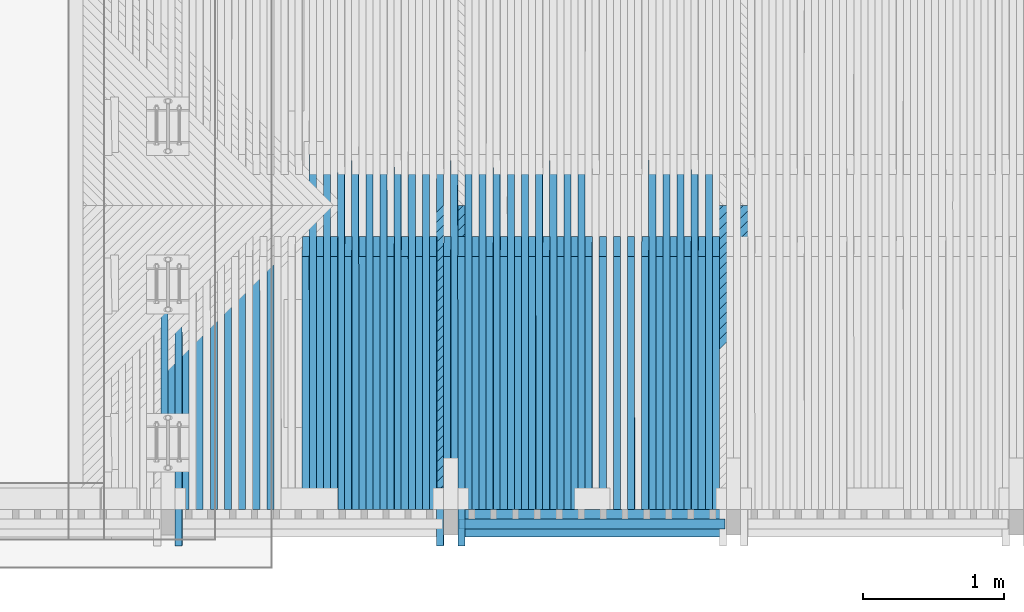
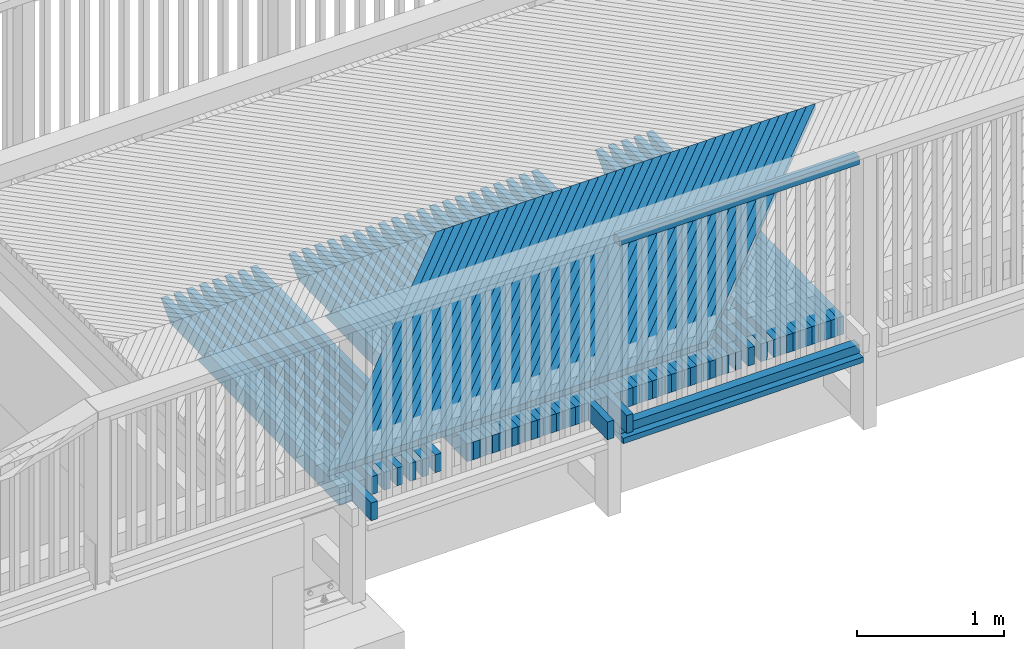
# One storey, part 18 of 52: 110 beams.
"""IFC2X3 building model written with IfcOpenShell, lengths in millimetres."""

import ifcopenshell
import ifcopenshell.guid

model = None  # the IFC model being written
_history = None  # IfcOwnerHistory: only IFC2X3 demands one
_inside = {}  # id of a spatial element -> (the spatial element, [elements in it])
_under = {}  # id of a project, library or spatial element -> (it, [spatial elements below it])
_declared = {}  # id of a project -> (the project, [libraries it declares])
_typed = {}  # id of a type object -> (the type object, [elements of that type])
_made_of = {}  # id of a material, layer set ... -> (it, [elements and type objects made of it])


def new_model(schema):
    """Start an empty IFC model of exactly this schema.

    Asked for "IFC4X3", IfcOpenShell would pick the latest addendum, in which some entities
    have other attributes; the version numbers below select the first issue.
    IFC2X3 requires an IfcOwnerHistory on every rooted entity: one is made here for all.
    """
    global model, _history
    if schema == "IFC4X3":
        model = ifcopenshell.file(schema_version=(4, 3, 0, 0))
    else:
        model = ifcopenshell.file(schema=schema)
    _inside.clear()
    _under.clear()
    _declared.clear()
    _typed.clear()
    _made_of.clear()
    _history = None
    if model.schema == "IFC2X3":
        org = make("IfcOrganization", Name="unknown")
        user = make(
            "IfcPersonAndOrganization",
            ThePerson=make("IfcPerson", FamilyName="unknown"),
            TheOrganization=org,
        )
        app = make(
            "IfcApplication",
            ApplicationDeveloper=org,
            Version="unknown",
            ApplicationFullName="unknown",
            ApplicationIdentifier="unknown",
        )
        _history = make(
            "IfcOwnerHistory",
            OwningUser=user,
            OwningApplication=app,
            ChangeAction="ADDED",
            CreationDate=0,
        )
    return model


def make(cls, **values):
    """One entity of the class cls with the attributes given. An attribute that is None is left unset."""
    return model.create_entity(
        cls, **{name: value for name, value in values.items() if value is not None}
    )


def rooted(cls, **values):
    """An entity with a GlobalId (a new one), such as an element, a storey or a relation."""
    return make(cls, GlobalId=ifcopenshell.guid.new(), OwnerHistory=_history, **values)


def si_unit(unit_type, name, prefix=None):
    """IfcSIUnit, for example si_unit("LENGTHUNIT", "METRE", prefix="MILLI")."""
    return make("IfcSIUnit", UnitType=unit_type, Prefix=prefix, Name=name)


def assignment(units):
    """IfcUnitAssignment: the units of a project."""
    return None if units is None else make("IfcUnitAssignment", Units=units)


def point(xyz):
    """IfcCartesianPoint."""
    return None if xyz is None else make("IfcCartesianPoint", Coordinates=xyz)


def direction(xyz):
    """IfcDirection."""
    return None if xyz is None else make("IfcDirection", DirectionRatios=xyz)


def frame(location, z_axis=None, x_axis=None):
    """IfcAxis2Placement3D, a coordinate frame: its origin and axes. An axis left out is left unset."""
    return make(
        "IfcAxis2Placement3D",
        Location=point(location),
        Axis=direction(z_axis),
        RefDirection=direction(x_axis),
    )


def origin_with_axes():
    """The frame at (0, 0, 0) with the z axis (0, 0, 1) and the x axis (1, 0, 0) written out."""
    return frame((0.0, 0.0, 0.0), z_axis=(0.0, 0.0, 1.0), x_axis=(1.0, 0.0, 0.0))


def place(relative_to, where):
    """IfcLocalPlacement: puts the frame where relative to a parent placement (None: the world)."""
    return make(
        "IfcLocalPlacement", PlacementRelTo=relative_to, RelativePlacement=where
    )


def context(
    kind, dimensions, precision=None, world=None, true_north=None, identifier=None
):
    """IfcGeometricRepresentationContext, for example the 3D "Model" context."""
    return make(
        "IfcGeometricRepresentationContext",
        ContextIdentifier=identifier,
        ContextType=kind,
        CoordinateSpaceDimension=dimensions,
        Precision=precision,
        WorldCoordinateSystem=world,
        TrueNorth=true_north,
    )


def subcontext(parent, identifier, kind, view, scale=None):
    """IfcGeometricRepresentationSubContext, for example "Body" below "Model"."""
    return make(
        "IfcGeometricRepresentationSubContext",
        ContextIdentifier=identifier,
        ContextType=kind,
        ParentContext=parent,
        TargetScale=scale,
        TargetView=view,
    )


def project(units=None, contexts=None):
    """IfcProject with its units and contexts."""
    return rooted(
        "IfcProject",
        Name="project",
        RepresentationContexts=contexts,
        UnitsInContext=assignment(units),
    )


def spatial(cls, under=None, at=None, **own):
    """A site, building, storey or space (cls), placed at a placement, below another one or the project."""
    s = rooted(cls, ObjectPlacement=at, **own)
    if under is not None:
        _under.setdefault(under.id(), (under, []))[1].append(s)
    return s


def faces_of(points, faces, orient=None, outer=None):
    """IfcFace entities. A face is a list of loops; a loop is a list of indices into points, from 0.

    orient and outer hold one flag for each loop. By default every Orientation is true, the
    first loop of a face is its IfcFaceOuterBound and the others are IfcFaceBound.
    """
    made = []
    for i, loops in enumerate(faces):
        bounds = []
        for j, loop in enumerate(loops):
            is_outer = j == 0 if outer is None else outer[i][j]
            bounds.append(
                make(
                    "IfcFaceOuterBound" if is_outer else "IfcFaceBound",
                    Bound=make("IfcPolyLoop", Polygon=[points[k] for k in loop]),
                    Orientation=True if orient is None else orient[i][j],
                )
            )
        made.append(make("IfcFace", Bounds=bounds))
    return made


def faceted_brep(points, faces, orient=None, outer=None, voids=None):
    """IfcFacetedBrep: a solid bounded by flat faces; with voids (closed shells), ...WithVoids."""
    shared = [point(p) for p in points]
    hull = make("IfcClosedShell", CfsFaces=faces_of(shared, faces, orient, outer))
    if voids is None:
        return make("IfcFacetedBrep", Outer=hull)
    return make(
        "IfcFacetedBrepWithVoids",
        Outer=hull,
        Voids=[
            make(cls, CfsFaces=faces_of(shared, fs, o, b)) for cls, fs, o, b in voids
        ],
    )


def shape(context_of_items, identifier, shape_type, items):
    """IfcShapeRepresentation: the items that make up one representation, for example the "Body"."""
    return make(
        "IfcShapeRepresentation",
        ContextOfItems=context_of_items,
        RepresentationIdentifier=identifier,
        RepresentationType=shape_type,
        Items=items,
    )


def material(Name=None, Category=None):
    """IfcMaterial."""
    return make("IfcMaterial", Name=Name, Category=Category)


def made_of(thing, what):
    """Note that an element or type object is made of a material, layer set ...; save() writes the relation."""
    if what is not None:
        _made_of.setdefault(what.id(), (what, []))[1].append(thing)
    return thing


def type_object(cls, material=None, **own):
    """A type object (cls), such as IfcWallType, which elements share."""
    return made_of(rooted(cls, **own), material)


def element(
    cls,
    number,
    at=None,
    inside=None,
    cuts=None,
    type_object=None,
    material=None,
    context=None,
    identifier="Body",
    shape_type=None,
    held_by="IfcProductDefinitionShape",
    body=None,
    shapes=None,
    **own,
):
    """One element of the class cls, such as IfcWall. Its Tag is "e" and its number.

    at: its placement. inside: the storey or other place that contains it. cuts: it is an
    opening in that element (IfcRelVoidsElement). A single representation is given by context,
    identifier, shape_type and body (its items); several are given by shapes. held_by: the class
    of the entity that holds the representations. save() writes the other relations.
    """
    e = rooted(cls, Tag="e%d" % number, ObjectPlacement=at, **own)
    if body is not None:
        shapes = [shape(context, identifier, shape_type, body)]
    if shapes is not None:
        e.Representation = make(held_by, Representations=shapes)
    if inside is not None:
        _inside.setdefault(inside.id(), (inside, []))[1].append(e)
    if cuts is not None:
        rooted(
            "IfcRelVoidsElement", RelatingBuildingElement=cuts, RelatedOpeningElement=e
        )
    if type_object is not None:
        _typed.setdefault(type_object.id(), (type_object, []))[1].append(e)
    return made_of(e, material)


def aggregate(whole, parts):
    """IfcRelAggregates: a whole, such as a stair, and the parts it consists of."""
    return rooted("IfcRelAggregates", RelatingObject=whole, RelatedObjects=parts)


def save(model, path):
    """Write the relations noted so far, then the file.

    IfcRelAggregates (storeys below a building ...), IfcRelContainedInSpatialStructure (elements
    in a storey), IfcRelDefinesByType, IfcRelAssociatesMaterial and IfcRelDeclares: one each for
    every whole, place, type object, material and project.
    """
    for whole, parts in _under.values():
        aggregate(whole, parts)
    for where, things in _inside.values():
        rooted(
            "IfcRelContainedInSpatialStructure",
            RelatedElements=things,
            RelatingStructure=where,
        )
    for kind, things in _typed.values():
        rooted("IfcRelDefinesByType", RelatedObjects=things, RelatingType=kind)
    for what, things in _made_of.values():
        rooted("IfcRelAssociatesMaterial", RelatedObjects=things, RelatingMaterial=what)
    for by, libraries in _declared.values():
        rooted("IfcRelDeclares", RelatingContext=by, RelatedDefinitions=libraries)
    model.write(path)


model = new_model("IFC2X3")

# Units and contexts
model_context = context("Model", 3, precision=1e-05, world=origin_with_axes())
body_context = subcontext(model_context, "Body", "Model", "MODEL_VIEW")
ifc_project = project(units=[si_unit("LENGTHUNIT", "METRE", prefix="MILLI"), si_unit("AREAUNIT", "SQUARE_METRE"), si_unit("VOLUMEUNIT", "CUBIC_METRE"), si_unit("MASSUNIT", "GRAM", prefix="KILO"), si_unit("TIMEUNIT", "SECOND"), si_unit("PLANEANGLEUNIT", "RADIAN"), si_unit("SOLIDANGLEUNIT", "STERADIAN"), si_unit("THERMODYNAMICTEMPERATUREUNIT", "DEGREE_CELSIUS"), si_unit("LUMINOUSINTENSITYUNIT", "LUMEN")], contexts=[model_context])

# Site, building, storey
site_placement = place(None, origin_with_axes())
site = spatial("IfcSite", under=ifc_project, at=site_placement, Name="Undefined", CompositionType="ELEMENT")
building_placement = place(site_placement, origin_with_axes())
building = spatial("IfcBuilding", under=site, at=building_placement, Name="Undefined", CompositionType="ELEMENT")
storey_placement = place(building_placement, origin_with_axes())
storey = spatial("IfcBuildingStorey", under=building, at=storey_placement, Name="Undefined", CompositionType="ELEMENT", Elevation=0.0)

# Beams
ifc_material = material(Name="TIMBER/Timber_Undefined")
beam_type_1 = type_object("IfcBeamType", Name="70*70", PredefinedType="NOTDEFINED")
for number, where, z_axis, x_axis, name in (
    (1, (2060.3049307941, 110.009999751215, 2938.55031617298), (0.0, -1.0, 0.0), (0.999961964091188, 0.0, 0.00872183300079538), "BEAM"),
    (2, (2060.3049307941, 110.009999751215, 4498.55031617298), (0.0, -1.0, 0.0), (0.999961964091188, 0.0, 0.00872183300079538), "BEAM"),
):
    element("IfcBeam", number, at=place(storey_placement, frame(where, z_axis=z_axis, x_axis=x_axis)), inside=storey, type_object=beam_type_1, material=ifc_material, Name=name, ObjectType="70*70", context=body_context, shape_type="Brep", body=[
        faceted_brep([(-3.63797880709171e-12, 35.0000000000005, -35.0), (-3.63797880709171e-12, 35.0000000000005, 35.0), (1880.07227097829, 34.9999999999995, 35.0), (1880.07227097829, 34.9999999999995, -35.0), (-3.63797880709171e-12, -34.9999999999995, 35.0), (1880.07227097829, -35.0000000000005, 35.0), (-3.63797880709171e-12, -34.9999999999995, -35.0), (1880.07227097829, -35.0000000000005, -35.0)], [[[0, 1, 2, 3]], [[1, 4, 5, 2]], [[4, 6, 7, 5]], [[6, 0, 3, 7]], [[5, 7, 3, 2]], [[6, 4, 1, 0]]]),
    ])
beam_type_2 = type_object("IfcBeamType", Name="50*50", PredefinedType="NOTDEFINED")
for number, where, z_axis, x_axis, name in (
    (3, (1982.89840031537, 2364.50010032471, 3206.05577851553), (0.707207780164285, -0.706981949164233, -0.00580338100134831), (-0.706907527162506, -0.706948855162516, -0.0224736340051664), "BEAM"),
    (4, (2053.61914354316, 2364.50010032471, 3206.75839778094), (0.707207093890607, -0.706981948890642, -0.00588644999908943), (-0.706910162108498, -0.706948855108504, -0.0223906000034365), "BEAM"),
    (5, (2124.3399688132, 2364.50010032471, 3207.45271013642), (0.707206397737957, -0.706981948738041, -0.00596951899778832), (-0.706912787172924, -0.706948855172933, -0.0223075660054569), "BEAM"),
    (6, (2195.06087514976, 2364.50010032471, 3208.13871557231), (0.70720569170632, -0.706981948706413, -0.00605258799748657), (-0.706915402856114, -0.706948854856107, -0.0222245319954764), "BEAM"),
    (7, (2265.78186157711, 2364.50010032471, 3208.8164140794), (0.707204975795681, -0.706981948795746, -0.00613565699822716), (-0.70691800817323, -0.706948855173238, -0.0221414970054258), "BEAM"),
    (8, (2336.5029271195, 2364.50010032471, 3209.48580564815), (0.707204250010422, -0.706981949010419, -0.00621872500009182), (-0.706920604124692, -0.706948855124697, -0.0220584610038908), "BEAM"),
    (9, (2407.22407080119, 2364.50010032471, 3210.14689026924), (0.707203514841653, -0.706981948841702, -0.00630179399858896), (-0.706923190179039, -0.706948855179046, -0.0219754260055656), "BEAM"),
    (10, (2477.94529164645, 2364.50010032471, 3210.79966793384), (0.707202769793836, -0.706981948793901, -0.00638486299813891), (-0.706925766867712, -0.706948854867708, -0.0218923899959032), "BEAM"),
    (11, (4882.50574585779, 2364.50010032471, 3228.05141176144), (0.707171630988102, -0.706981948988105, -0.00920913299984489), (-0.707007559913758, -0.706948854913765, -0.0190689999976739), "BEAM"),
    (12, (4811.78248202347, 2364.50010032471, 3227.68107523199), (0.707172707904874, -0.7069819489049, -0.00912606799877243), (-0.707005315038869, -0.706948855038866, -0.0191520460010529), "BEAM"),
    (13, (4741.05926217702, 2364.50010032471, 3227.30243150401), (0.70717377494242, -0.706981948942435, -0.00904300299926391), (-0.707003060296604, -0.706948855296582, -0.0192350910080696), "BEAM"),
    (14, (4670.33608729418, 2364.50010032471, 3226.91548058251), (0.707174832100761, -0.706981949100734, -0.00895993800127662), (-0.707000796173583, -0.706948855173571, -0.019318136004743), "BEAM"),
    (15, (4599.61295835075, 2364.50010032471, 3226.52022247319), (0.707175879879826, -0.706981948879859, -0.00887687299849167), (-0.706998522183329, -0.706948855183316, -0.0194011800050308), "BEAM"),
    (16, (4528.88987632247, 2364.50010032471, 3226.11665718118), (0.707176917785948, -0.706981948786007, -0.00879380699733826), (-0.706996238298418, -0.706948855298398, -0.0194842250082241), "BEAM"),
    (17, (4458.16684218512, 2364.50010032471, 3225.70478471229), (0.707177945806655, -0.706981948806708, -0.00871074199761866), (-0.706993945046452, -0.706948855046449, -0.0195672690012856), "BEAM"),
    (18, (4387.44385691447, 2364.50010032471, 3225.284605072), (0.707178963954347, -0.70698194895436, -0.0086276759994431), (-0.706991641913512, -0.706948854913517, -0.0196503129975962), "BEAM"),
    (19, (4316.72092148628, 2364.50010032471, 3224.85611826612), (0.707179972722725, -0.706981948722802, -0.0085446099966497), (-0.706989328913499, -0.706948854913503, -0.0197333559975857), "BEAM"),
    (20, (4245.99803687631, 2364.50010032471, 3224.41932430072), (0.707180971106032, -0.706981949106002, -0.00846154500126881), (-0.706987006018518, -0.706948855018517, -0.019816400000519), "BEAM"),
    (21, (4175.27520406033, 2364.50010032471, 3223.97422318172), (0.707181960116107, -0.706981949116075, -0.00837847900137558), (-0.706984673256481, -0.706948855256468, -0.0198994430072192), "BEAM"),
    (22, (4104.5524240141, 2364.50010032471, 3223.52081491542), (0.707182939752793, -0.706981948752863, -0.00829541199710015), (-0.706982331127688, -0.706948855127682, -0.019982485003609), "BEAM"),
    (23, (4033.82969771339, 2364.50010032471, 3223.05909950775), (0.707183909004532, -0.706981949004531, -0.00821234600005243), (-0.706979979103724, -0.70694885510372, -0.0200655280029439), "BEAM"),
    (24, (3963.10702613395, 2364.50010032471, 3222.58907696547), (0.707184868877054, -0.70698194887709, -0.00812927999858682), (-0.706977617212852, -0.706948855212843, -0.0201485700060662), "BEAM"),
    (25, (3892.38441025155, 2364.50010032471, 3222.11074729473), (0.707185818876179, -0.706981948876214, -0.00804621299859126), (-0.706975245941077, -0.706948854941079, -0.0202316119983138), "BEAM"),
    (26, (3821.66185104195, 2364.50010032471, 3221.62411050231), (0.707186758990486, -0.706981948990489, -0.0079631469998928), (-0.706972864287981, -0.706948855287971, -0.020314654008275), "BEAM"),
    (27, (3750.93934948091, 2364.50010032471, 3221.12916659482), (0.707187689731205, -0.706981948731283, -0.00788007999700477), (-0.706970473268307, -0.706948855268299, -0.0203976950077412), "BEAM"),
    (28, (3680.21690654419, 2364.50010032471, 3220.62591557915), (0.707188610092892, -0.706981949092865, -0.00779701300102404), (-0.70696807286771, -0.706948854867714, -0.0204807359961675), "BEAM"),
    (29, (3609.49452320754, 2364.50010032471, 3220.11435746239), (0.707189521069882, -0.706981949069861, -0.00771394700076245), (-0.70696566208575, -0.706948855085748, -0.0205637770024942), "BEAM"),
    (30, (3538.77220044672, 2364.50010032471, 3219.59449225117), (0.707190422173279, -0.706981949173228, -0.00763088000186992), (-0.706963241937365, -0.706948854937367, -0.0206468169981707), "BEAM"),
    (31, (3468.04993923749, 2364.50010032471, 3219.06631995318), (0.707191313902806, -0.706981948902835, -0.00754781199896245), (-0.706960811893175, -0.706948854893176, -0.0207298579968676), "BEAM"),
    (32, (3397.3277405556, 2364.50010032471, 3218.52984057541), (0.707192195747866, -0.706981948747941, -0.00746474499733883), (-0.706958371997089, -0.706948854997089, -0.0208128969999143), "BEAM"),
    (33, (3326.60560537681, 2364.50010032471, 3217.98505412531), (0.707193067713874, -0.70698194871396, -0.00738167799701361), (-0.706955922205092, -0.70694885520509, -0.0208959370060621), "BEAM"),
    (34, (3255.88353467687, 2364.50010032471, 3217.43196061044), (0.707193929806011, -0.706981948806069, -0.00729860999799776), (-0.706953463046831, -0.706948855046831, -0.0209789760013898), "BEAM"),
    (35, (3185.16152943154, 2364.50010032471, 3216.87056003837), (0.707194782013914, -0.70698194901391, -0.00721554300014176), (-0.706950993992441, -0.706948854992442, -0.0210620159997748), "BEAM"),
    (36, (3114.43959061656, 2364.50010032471, 3216.30085241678), (0.707195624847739, -0.706981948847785, -0.00713247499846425), (-0.706948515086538, -0.706948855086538, -0.0211450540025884), "BEAM"),
    (37, (3043.7177192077, 2364.50010032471, 3215.72283775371), (0.707196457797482, -0.706981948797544, -0.00704940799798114), (-0.706946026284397, -0.706948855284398, -0.0212280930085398), "BEAM"),
    (38, (2972.99591618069, 2364.50010032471, 3215.13651605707), (0.70719728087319, -0.706981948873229, -0.00696633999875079), (-0.706943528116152, -0.706948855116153, -0.0213111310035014), "BEAM"),
    (39, (2902.27418251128, 2364.50010032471, 3214.5418873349), (0.707198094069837, -0.706981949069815, -0.00688327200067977), (-0.706941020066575, -0.706948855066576, -0.0213941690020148), "BEAM"),
    (40, (2831.55251917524, 2364.50010032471, 3213.93895159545), (0.70719889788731, -0.706981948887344, -0.00680020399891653), (-0.706938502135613, -0.706948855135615, -0.02147720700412), "BEAM"),
    (41, (2760.83092714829, 2364.50010032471, 3213.32770884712), (0.707199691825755, -0.706981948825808, -0.00671713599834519), (-0.706935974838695, -0.706948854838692, -0.0215602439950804), "BEAM"),
    (42, (2690.1094074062, 2364.50010032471, 3212.70815909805), (0.707200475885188, -0.706981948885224, -0.00663406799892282), (-0.70693343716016, -0.706948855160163, -0.0216432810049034), "BEAM"),
    (43, (2619.38796092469, 2364.50010032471, 3212.08030235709), (0.707201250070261, -0.706981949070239, -0.00655099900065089), (-0.706930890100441, -0.706948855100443, -0.0217263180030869), "BEAM"),
    (44, (2548.66658867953, 2364.50010032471, 3211.44413863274), (0.70720201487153, -0.70698194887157, -0.00646793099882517), (-0.706928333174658, -0.706948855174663, -0.0218093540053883), "BEAM"),
):
    element("IfcBeam", number, at=place(storey_placement, frame(where, z_axis=z_axis, x_axis=x_axis)), inside=storey, type_object=beam_type_2, material=ifc_material, Name=name, ObjectType="50*50", context=body_context, shape_type="Brep", body=[
        faceted_brep([(24.894245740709, 25.0, -25.0), (-25.0086637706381, 24.9999999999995, 24.9999999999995), (2804.3406783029, 25.0000000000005, 25.0000000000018), (2854.34301907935, 25.0, -24.9999999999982), (-26.4222658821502, -25.0, 24.9999999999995), (2802.92643296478, -25.0, 25.0000000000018), (23.4806436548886, -25.0, -25.0), (2852.92877373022, -25.0, -24.9999999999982)], [[[0, 1, 2, 3]], [[1, 4, 5, 2]], [[4, 6, 7, 5]], [[6, 0, 3, 7]], [[5, 7, 3, 2]], [[6, 4, 1, 0]]]),
    ])
beam_type_3 = type_object("IfcBeamType", Name="195*45", PredefinedType="NOTDEFINED")
beam_1_placement = place(storey_placement, frame((2059.95011570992, 117.509999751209, 2881.05428246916), z_axis=(0.0, -1.0, 0.0), x_axis=(0.999961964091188, 0.0, 0.00872183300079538)))
element("IfcBeam", 45, at=beam_1_placement, inside=storey, type_object=beam_type_3, material=ifc_material, Name="BEAM", ObjectType="195*45", context=body_context, shape_type="Brep", body=[
    faceted_brep([(3.63797880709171e-12, 22.4999999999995, -97.5), (3.63797880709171e-12, 22.4999999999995, 97.5), (1880.22135781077, 22.4999999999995, 97.5), (1880.22135781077, 22.4999999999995, -97.5), (1.81898940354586e-12, -22.5000000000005, 97.5), (1880.22135781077, -22.5000000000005, 97.5), (1.81898940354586e-12, -22.5000000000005, -97.5), (1880.22135781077, -22.5000000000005, -97.5)], [[[0, 1, 2, 3]], [[1, 4, 5, 2]], [[4, 6, 7, 5]], [[6, 0, 3, 7]], [[5, 7, 3, 2]], [[6, 4, 1, 0]]]),
])
beam_type_4 = type_object("IfcBeamType", Name="150*50", PredefinedType="NOTDEFINED")
for number, where, z_axis, x_axis, name in (
    (46, (3875.98195239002, 216.50460761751, 3079.01849258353), (-0.00693257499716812, -0.0199960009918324, 0.99977602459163), (-0.000138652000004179, 0.99980006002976, 0.0199955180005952), "BEAM"),
    (47, (3775.96432395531, 216.50460761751, 3078.32495570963), (-0.007098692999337, -0.0199960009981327, 0.999774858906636), (-0.00014197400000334, 0.999800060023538, 0.0199954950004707), "BEAM"),
    (48, (3675.94681213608, 216.50460761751, 3077.61480038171), (-0.00726481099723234, -0.0199960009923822, 0.999773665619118), (-0.000145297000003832, 0.999800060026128, 0.0199954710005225), "BEAM"),
    (49, (3575.92941969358, 216.50460761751, 3076.88802661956), (-0.00743092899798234, -0.0199960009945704, 0.999772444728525), (-0.000148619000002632, 0.999800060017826, 0.0199954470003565), "BEAM"),
    (50, (3475.91214938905, 216.50460761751, 3076.1446344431), (-0.00759704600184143, -0.0199960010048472, 0.99977119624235), (-0.000151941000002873, 0.999800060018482, 0.0199954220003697), "BEAM"),
    (51, (3375.89500398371, 216.50460761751, 3075.38462387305), (-0.00776316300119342, -0.0199960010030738, 0.999769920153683), (-0.000155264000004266, 0.999800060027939, 0.0199953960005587), "BEAM"),
    (52, (3275.87798623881, 216.50460761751, 3074.60799493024), (-0.0079292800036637, -0.0199960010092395, 0.99976861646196), (-0.000158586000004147, 0.999800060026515, 0.0199953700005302), "BEAM"),
    (53, (3175.86109891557, 216.50460761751, 3073.81474763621), (-0.00809539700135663, -0.0199960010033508, 0.999767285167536), (-0.000161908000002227, 0.999800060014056, 0.0199953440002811), "BEAM"),
    (54, (3075.84434477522, 216.50460761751, 3073.00488201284), (-0.00826151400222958, -0.0199960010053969, 0.999765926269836), (-0.000165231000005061, 0.999800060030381, 0.0199953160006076), "BEAM"),
    (55, (2975.82772657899, 216.50460761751, 3072.1783980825), (-0.00842762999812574, -0.0199960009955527, 0.999764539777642), (-0.0001685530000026, 0.999800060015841, 0.0199952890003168), "BEAM"),
    (56, (2875.81124708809, 216.50460761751, 3071.33529586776), (-0.00859374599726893, -0.0199960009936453, 0.999763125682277), (-0.000171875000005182, 0.999800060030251, 0.019995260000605), "BEAM"),
    (57, (2775.79490906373, 216.50460761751, 3070.47557539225), (-0.00875986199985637, -0.0199960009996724, 0.999761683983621), (-0.000175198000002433, 0.999800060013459, 0.0199952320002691), "BEAM"),
    (58, (2675.77871526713, 216.50460761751, 3069.5992366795), (-0.00892597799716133, -0.0199960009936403, 0.999760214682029), (-0.000178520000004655, 0.999800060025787, 0.0199952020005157), "BEAM"),
    (59, (2575.76266845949, 216.50460761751, 3068.70627975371), (-0.00909209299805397, -0.0199960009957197, 0.999758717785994), (-0.000181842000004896, 0.999800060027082, 0.0199951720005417), "BEAM"),
    (60, (2475.74677140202, 216.50460761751, 3067.79670463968), (-0.00925820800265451, -0.0199960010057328, 0.999757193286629), (-0.000185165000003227, 0.999800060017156, 0.0199951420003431), "BEAM"),
    (61, (2375.73102685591, 216.50460761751, 3066.87051136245), (-0.00942432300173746, -0.0199960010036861, 0.999755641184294), (-0.000188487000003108, 0.999800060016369, 0.0199951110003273), "BEAM"),
    (62, (2275.71543758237, 216.50460761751, 3065.9276999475), (-0.00959043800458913, -0.0199960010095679, 0.999754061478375), (-0.00019180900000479, 0.999800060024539, 0.0199950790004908), "BEAM"),
    (63, (2175.70000634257, 216.50460761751, 3064.96827042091), (-0.00975655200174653, -0.0199960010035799, 0.999752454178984), (-0.000195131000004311, 0.999800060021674, 0.0199950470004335), "BEAM"),
):
    element("IfcBeam", number, at=place(storey_placement, frame(where, z_axis=z_axis, x_axis=x_axis)), inside=storey, type_object=beam_type_4, material=ifc_material, Name=name, ObjectType="150*50", context=body_context, shape_type="Brep", body=[
        faceted_brep([(-1.67788130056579e-07, -24.9999999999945, -74.9999999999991), (1.67786311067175e-07, -24.9999999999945, 75.0000000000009), (1.67786311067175e-07, 25.0000000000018, 75.0), (-1.67787220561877e-07, 25.0000000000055, -75.0), (1928.42646353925, -25.0, -75.0), (1789.96936433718, -25.0000000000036, 74.9999999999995), (1789.96936408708, 24.9999999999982, 75.0000000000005), (1928.42646328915, 24.9999999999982, -74.9999999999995)], [[[0, 1, 2, 3]], [[1, 0, 4, 5]], [[2, 1, 5, 6]], [[3, 2, 6, 7]], [[0, 3, 7, 4]], [[7, 6, 5, 4]]]),
    ])
for number, where, z_axis, x_axis, name in (
    (64, (3825.98315440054, 216.504607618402, 3078.67179443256), (-0.00693257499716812, -0.0199960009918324, 0.99977602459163), (-0.000138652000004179, 0.99980006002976, 0.0199955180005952), "BEAM"),
    (65, (3725.96558426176, 216.504607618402, 3077.96994999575), (-0.007098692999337, -0.0199960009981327, 0.999774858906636), (-0.00014197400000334, 0.999800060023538, 0.0199954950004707), "BEAM"),
    (66, (3625.9481321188, 216.504607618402, 3077.25148711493), (-0.00726481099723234, -0.0199960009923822, 0.999773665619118), (-0.000145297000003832, 0.999800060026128, 0.0199954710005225), "BEAM"),
    (67, (3525.93080073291, 216.504607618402, 3076.51640581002), (-0.00743092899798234, -0.0199960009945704, 0.999772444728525), (-0.000148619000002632, 0.999800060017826, 0.0199954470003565), "BEAM"),
    (68, (3425.91359286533, 216.504607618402, 3075.76470610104), (-0.00759704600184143, -0.0199960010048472, 0.99977119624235), (-0.000151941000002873, 0.999800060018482, 0.0199954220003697), "BEAM"),
    (69, (2925.82950294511, 216.504607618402, 3071.75693223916), (-0.00842762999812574, -0.0199960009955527, 0.999764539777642), (-0.0001685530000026, 0.999800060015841, 0.0199952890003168), "BEAM"),
    (70, (2825.81309417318, 216.504607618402, 3070.90552255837), (-0.00859374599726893, -0.0199960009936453, 0.999763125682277), (-0.000171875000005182, 0.999800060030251, 0.019995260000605), "BEAM"),
    (71, (2725.79682824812, 216.504607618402, 3070.03749462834), (-0.00875986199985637, -0.0199960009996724, 0.999761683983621), (-0.000175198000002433, 0.999800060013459, 0.0199952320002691), "BEAM"),
    (72, (2625.78070793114, 216.504607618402, 3069.1528484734), (-0.00892597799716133, -0.0199960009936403, 0.999760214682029), (-0.000178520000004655, 0.999800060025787, 0.0199952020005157), "BEAM"),
    (73, (2525.76473598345, 216.504607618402, 3068.25158411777), (-0.00909209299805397, -0.0199960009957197, 0.999758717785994), (-0.000181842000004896, 0.999800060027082, 0.0199951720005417), "BEAM"),
    (74, (2425.74891516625, 216.504607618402, 3067.33370158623), (-0.00925820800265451, -0.0199960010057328, 0.999757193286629), (-0.000185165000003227, 0.999800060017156, 0.0199951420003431), "BEAM"),
    (75, (2325.73324824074, 216.504607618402, 3066.39920090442), (-0.00942432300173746, -0.0199960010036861, 0.999755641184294), (-0.000188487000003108, 0.999800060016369, 0.0199951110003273), "BEAM"),
    (76, (2225.7177379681, 216.504607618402, 3065.44808209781), (-0.00959043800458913, -0.0199960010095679, 0.999754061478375), (-0.00019180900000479, 0.999800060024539, 0.0199950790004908), "BEAM"),
    (77, (2125.70238710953, 216.504607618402, 3064.48034519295), (-0.00975655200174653, -0.0199960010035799, 0.999752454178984), (-0.000195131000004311, 0.999800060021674, 0.0199950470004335), "BEAM"),
):
    element("IfcBeam", number, at=place(storey_placement, frame(where, z_axis=z_axis, x_axis=x_axis)), inside=storey, type_object=beam_type_4, material=ifc_material, Name=name, ObjectType="150*50", context=body_context, shape_type="Brep", body=[
        faceted_brep([(-1.67788130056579e-07, -24.9999999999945, -74.9999999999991), (1.67786311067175e-07, -24.9999999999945, 75.0000000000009), (1.67786311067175e-07, 25.0000000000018, 75.0), (-1.67787220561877e-07, 25.0000000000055, -75.0), (2375.00494422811, 25.0000000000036, -74.9999999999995), (2375.0049444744, -24.9999999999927, -74.9999999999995), (2510.5924871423, -24.9999999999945, 60.5875430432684), (2150.42514405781, -24.9999999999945, 75.0000000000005), (2150.42515052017, 25.0000000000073, 75.0), (2510.59248715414, 25.0000000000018, 60.5875433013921)], [[[0, 1, 2, 3]], [[0, 3, 4, 5]], [[1, 0, 5, 6, 7]], [[2, 1, 7, 8]], [[4, 3, 2, 8, 9]], [[5, 4, 9, 6]], [[6, 9, 8, 7]]]),
    ])
beam_2_placement = place(storey_placement, frame((2075.63173701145, -41.4438078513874, 3058.83248374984), z_axis=(-0.00992284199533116, -0.0199960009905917, 0.999750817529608), x_axis=(-0.000198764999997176, 0.999800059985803, 0.0199950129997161)))
element("IfcBeam", 78, at=beam_2_placement, inside=storey, type_object=beam_type_4, material=ifc_material, Name="BEAM", ObjectType="150*50", context=body_context, shape_type="Brep", body=[
    faceted_brep([(-1.67788130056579e-07, -24.9999999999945, -74.9999999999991), (1.67786311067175e-07, -24.9999999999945, 75.0000000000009), (1.67786311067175e-07, 25.0000000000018, 75.0), (-1.67787220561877e-07, 25.0000000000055, -75.0), (2186.42645144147, -25.0, -75.0), (2047.96935255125, -25.0, 75.0), (2047.9693678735, 25.0, 75.0), (2186.42646676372, 24.9999999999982, -75.0)], [[[0, 1, 2, 3]], [[1, 0, 4, 5]], [[2, 1, 5, 6]], [[3, 2, 6, 7]], [[0, 3, 7, 4]], [[7, 6, 5, 4]]]),
])
beam_3_placement = place(storey_placement, frame((1925.61917607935, -41.4438078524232, 3057.33525195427), z_axis=(-0.0100889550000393, -0.019996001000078, 0.9997491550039), x_axis=(-0.000201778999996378, 0.999800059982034, 0.0199949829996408)))
element("IfcBeam", 79, at=beam_3_placement, inside=storey, type_object=beam_type_4, material=ifc_material, Name="BEAM", ObjectType="150*50", context=body_context, shape_type="Brep", body=[
    faceted_brep([(-1.67788130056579e-07, -24.9999999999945, -74.9999999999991), (1.67786311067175e-07, -24.9999999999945, 75.0000000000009), (1.67786311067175e-07, 25.0000000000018, 75.0), (-1.67787220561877e-07, 25.0000000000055, -75.0), (2633.00494750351, 25.0, -74.9999999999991), (2633.00494763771, -25.0, -74.9999999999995), (2768.59248713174, -25.0, 60.5875397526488), (2408.42500011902, -25.0, 75.0), (2408.42500056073, 25.0, 75.0), (2768.59248710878, 24.9999999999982, 60.5875398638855)], [[[0, 1, 2, 3]], [[0, 3, 4, 5]], [[1, 0, 5, 6, 7]], [[2, 1, 7, 8]], [[4, 3, 2, 8, 9]], [[5, 4, 9, 6]], [[8, 7, 6, 9]]]),
])
for number, where, z_axis, x_axis, name in (
    (80, (1975.66962900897, 216.50460761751, 3062.99955713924), (-0.0100889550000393, -0.019996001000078, 0.9997491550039), (-0.000201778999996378, 0.999800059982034, 0.0199949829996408), "BEAM"),
    (81, (1875.65468843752, 216.50460761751, 3061.99027343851), (-0.010254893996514, -0.0199960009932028, 0.999747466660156), (-0.000205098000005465, 0.999800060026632, 0.0199949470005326), "BEAM"),
    (82, (1775.63991694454, 216.50460761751, 3060.964371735), (-0.0104210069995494, -0.0199960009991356, 0.999745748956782), (-0.000208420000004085, 0.999800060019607, 0.0199949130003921), "BEAM"),
    (83, (1675.6253172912, 216.50460761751, 3059.92185205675), (-0.0105871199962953, -0.019996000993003, 0.99974400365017), (-0.000211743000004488, 0.999800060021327, 0.0199948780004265), "BEAM"),
    (84, (1575.61089223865, 216.50460761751, 3058.86271443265), (-0.0107532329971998, -0.019996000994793, 0.999742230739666), (-0.00021506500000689, 0.999800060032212, 0.0199948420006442), "BEAM"),
    (85, (1475.59664454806, 216.50460761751, 3057.78695889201), (-0.010919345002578, -0.019996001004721, 0.999740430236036), (-0.000218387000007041, 0.999800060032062, 0.0199948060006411), "BEAM"),
    (86, (1375.58257698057, 216.50460761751, 3056.69458546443), (-0.011085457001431, -0.0199960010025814, 0.999738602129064), (-0.00022170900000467, 0.999800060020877, 0.0199947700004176), "BEAM"),
    (87, (1275.56869229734, 216.50460761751, 3055.58559418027), (-0.0112515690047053, -0.0199960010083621, 0.999736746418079), (-0.000225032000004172, 0.999800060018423, 0.0199947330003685), "BEAM"),
    (88, (1175.55499325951, 216.50460761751, 3054.45998506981), (-0.0114176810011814, -0.0199960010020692, 0.999734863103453), (-0.000228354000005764, 0.999800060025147, 0.019994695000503), "BEAM"),
    (89, (1075.54148262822, 216.50460761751, 3053.31775816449), (-0.0115837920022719, -0.019996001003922, 0.999732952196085), (-0.000231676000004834, 0.999800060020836, 0.0199946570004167), "BEAM"),
    (90, (975.528163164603, 216.50460761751, 3052.1589134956), (-0.011749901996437, -0.0199960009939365, 0.999731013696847), (-0.000234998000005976, 0.99980006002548, 0.0199946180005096), "BEAM"),
):
    element("IfcBeam", number, at=place(storey_placement, frame(where, z_axis=z_axis, x_axis=x_axis)), inside=storey, type_object=beam_type_4, material=ifc_material, Name=name, ObjectType="150*50", context=body_context, shape_type="Brep", body=[
        faceted_brep([(-1.67788130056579e-07, -24.9999999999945, -74.9999999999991), (1.67786311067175e-07, -24.9999999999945, 75.0000000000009), (1.67786311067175e-07, 25.0000000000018, 75.0), (-1.67787220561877e-07, 25.0000000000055, -75.0), (1928.42646353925, -25.0, -75.0), (1789.96936433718, -25.0000000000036, 74.9999999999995), (1789.96936408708, 24.9999999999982, 75.0000000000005), (1928.42646328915, 24.9999999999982, -74.9999999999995)], [[[0, 1, 2, 3]], [[1, 0, 4, 5]], [[2, 1, 5, 6]], [[3, 2, 6, 7]], [[0, 3, 7, 4]], [[7, 6, 5, 4]]]),
    ])
for number, where, z_axis, x_axis, name in (
    (91, (2025.68719842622, 216.504607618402, 3063.49599021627), (-0.00992284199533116, -0.0199960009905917, 0.999750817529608), (-0.000198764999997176, 0.999800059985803, 0.0199950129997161), "BEAM"),
    (92, (1825.65731863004, 216.504607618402, 3061.47742615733), (-0.010254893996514, -0.0199960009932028, 0.999747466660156), (-0.000205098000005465, 0.999800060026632, 0.0199949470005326), "BEAM"),
    (93, (1725.64263303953, 216.504607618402, 3060.44321713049), (-0.0104210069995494, -0.0199960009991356, 0.999745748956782), (-0.000208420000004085, 0.999800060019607, 0.0199949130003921), "BEAM"),
    (94, (1625.62812066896, 216.504607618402, 3059.39239014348), (-0.0105871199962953, -0.019996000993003, 0.99974400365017), (-0.000211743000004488, 0.999800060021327, 0.0199948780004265), "BEAM"),
    (95, (1525.61378427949, 216.504607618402, 3058.32494522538), (-0.0107532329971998, -0.019996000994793, 0.999742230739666), (-0.00021506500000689, 0.999800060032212, 0.0199948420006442), "BEAM"),
    (96, (1425.59962663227, 216.504607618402, 3057.24088240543), (-0.010919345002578, -0.019996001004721, 0.999740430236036), (-0.000218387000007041, 0.999800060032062, 0.0199948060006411), "BEAM"),
    (97, (1325.58565048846, 216.504607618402, 3056.14020171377), (-0.011085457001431, -0.0199960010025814, 0.999738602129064), (-0.00022170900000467, 0.999800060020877, 0.0199947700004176), "BEAM"),
    (98, (1225.57185860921, 216.504607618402, 3055.02290318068), (-0.0112515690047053, -0.0199960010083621, 0.999736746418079), (-0.000225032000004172, 0.999800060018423, 0.0199947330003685), "BEAM"),
    (99, (1125.55825375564, 216.504607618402, 3053.888986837), (-0.0114176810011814, -0.0199960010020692, 0.999734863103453), (-0.000228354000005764, 0.999800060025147, 0.019994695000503), "BEAM"),
    (100, (1025.5448386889, 216.504607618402, 3052.73845271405), (-0.0115837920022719, -0.019996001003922, 0.999732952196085), (-0.000231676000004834, 0.999800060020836, 0.0199946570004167), "BEAM"),
    (101, (725.505759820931, 216.504607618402, 3049.18714398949), (-0.0120821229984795, -0.0199960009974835, 0.999727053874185), (-0.000241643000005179, 0.999800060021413, 0.0199945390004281), "BEAM"),
    (102, (625.493131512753, 216.504607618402, 3047.97013907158), (-0.0122482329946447, -0.0199960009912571, 0.999725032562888), (-0.000244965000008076, 0.99980006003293, 0.0199944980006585), "BEAM"),
    (103, (525.480706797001, 216.504607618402, 3046.73651653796), (-0.012414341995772, -0.0199960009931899, 0.99972298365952), (-0.000248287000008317, 0.999800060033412, 0.0199944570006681), "BEAM"),
    (104, (425.468488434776, 216.504607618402, 3045.48627642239), (-0.0125804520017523, -0.0199960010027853, 0.999720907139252), (-0.000251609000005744, 0.999800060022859, 0.0199944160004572), "BEAM"),
    (105, (325.456479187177, 216.504607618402, 3044.21941875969), (-0.0127465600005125, -0.0199960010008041, 0.9997188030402), (-0.000254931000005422, 0.999800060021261, 0.0199943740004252), "BEAM"),
    (106, (225.444681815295, 216.504607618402, 3042.93594358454), (-0.0129126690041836, -0.0199960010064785, 0.999716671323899), (-0.000258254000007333, 0.99980006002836, 0.0199943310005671), "BEAM"),
    (107, (125.433099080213, 216.504607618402, 3041.63585093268), (-0.0130787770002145, -0.0199960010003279, 0.999714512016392), (-0.00026157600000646, 0.999800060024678, 0.0199942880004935), "BEAM"),
):
    element("IfcBeam", number, at=place(storey_placement, frame(where, z_axis=z_axis, x_axis=x_axis)), inside=storey, type_object=beam_type_4, material=ifc_material, Name=name, ObjectType="150*50", context=body_context, shape_type="Brep", body=[
        faceted_brep([(-1.67788130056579e-07, -24.9999999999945, -74.9999999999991), (1.67786311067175e-07, -24.9999999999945, 75.0000000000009), (1.67786311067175e-07, 25.0000000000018, 75.0), (-1.67787220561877e-07, 25.0000000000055, -75.0), (2375.00494422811, 25.0000000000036, -74.9999999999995), (2375.0049444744, -24.9999999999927, -74.9999999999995), (2510.5924871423, -24.9999999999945, 60.5875430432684), (2150.42514405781, -24.9999999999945, 75.0000000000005), (2150.42515052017, 25.0000000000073, 75.0), (2510.59248715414, 25.0000000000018, 60.5875433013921)], [[[0, 1, 2, 3]], [[0, 3, 4, 5]], [[1, 0, 5, 6, 7]], [[2, 1, 7, 8]], [[4, 3, 2, 8, 9]], [[5, 4, 9, 6]], [[6, 9, 8, 7]]]),
    ])
beam_4_placement = place(storey_placement, frame((-24.5939098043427, 216.50460761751, 3039.65649707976), z_axis=(-0.0134109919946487, -0.0199960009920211, 0.999710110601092), x_axis=(-0.00026822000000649, 0.999800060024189, 0.0199942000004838)))
element("IfcBeam", 108, at=beam_4_placement, inside=storey, type_object=beam_type_4, material=ifc_material, Name="BEAM", ObjectType="150*50", context=body_context, shape_type="Brep", body=[
    faceted_brep([(-1.67788130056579e-07, -24.9999999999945, -74.9999999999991), (1.67786311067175e-07, -24.9999999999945, 75.0000000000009), (1.67786311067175e-07, 25.0000000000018, 75.0), (-1.67787220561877e-07, 25.0000000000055, -75.0), (1928.42646353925, -25.0, -75.0), (1789.96936433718, -25.0000000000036, 74.9999999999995), (1789.96936408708, 24.9999999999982, 75.0000000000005), (1928.42646328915, 24.9999999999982, -74.9999999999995)], [[[0, 1, 2, 3]], [[1, 0, 4, 5]], [[2, 1, 5, 6]], [[3, 2, 6, 7]], [[0, 3, 7, 4]], [[7, 6, 5, 4]]]),
])
beam_5_placement = place(storey_placement, frame((75.4865469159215, -41.4438078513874, 3035.82301395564), z_axis=(-0.0132448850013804, -0.019996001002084, 0.99971232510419), x_axis=(-0.0002652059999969, 0.999800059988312, 0.0199942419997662)))
element("IfcBeam", 109, at=beam_5_placement, inside=storey, type_object=beam_type_4, material=ifc_material, Name="BEAM", ObjectType="150*50", context=body_context, shape_type="Brep", body=[
    faceted_brep([(-1.67788130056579e-07, -24.9999999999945, -74.9999999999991), (1.67786311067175e-07, -24.9999999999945, 75.0000000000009), (1.67786311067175e-07, 25.0000000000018, 75.0), (-1.67787220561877e-07, 25.0000000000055, -75.0), (2186.42645144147, -25.0, -75.0), (2047.96935255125, -25.0, 75.0), (2047.9693678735, 25.0, 75.0), (2186.42646676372, 24.9999999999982, -75.0)], [[[0, 1, 2, 3]], [[1, 0, 4, 5]], [[2, 1, 5, 6]], [[3, 2, 6, 7]], [[0, 3, 7, 4]], [[7, 6, 5, 4]]]),
])
beam_6_placement = place(storey_placement, frame((25.4217337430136, 216.504607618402, 3040.31914083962), z_axis=(-0.0132448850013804, -0.019996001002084, 0.99971232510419), x_axis=(-0.0002652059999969, 0.999800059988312, 0.0199942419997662)))
element("IfcBeam", 110, at=beam_6_placement, inside=storey, type_object=beam_type_4, material=ifc_material, Name="BEAM", ObjectType="150*50", context=body_context, shape_type="Brep", body=[
    faceted_brep([(-1.67788130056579e-07, -24.9999999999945, -74.9999999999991), (1.67786311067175e-07, -24.9999999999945, 75.0000000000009), (1.67786311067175e-07, 25.0000000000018, 75.0), (-1.67787220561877e-07, 25.0000000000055, -75.0), (2375.00494422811, 25.0000000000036, -74.9999999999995), (2375.0049444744, -24.9999999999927, -74.9999999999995), (2510.5924871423, -24.9999999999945, 60.5875430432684), (2150.42514405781, -24.9999999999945, 75.0000000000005), (2150.42515052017, 25.0000000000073, 75.0), (2510.59248715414, 25.0000000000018, 60.5875433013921)], [[[0, 1, 2, 3]], [[0, 3, 4, 5]], [[1, 0, 5, 6, 7]], [[2, 1, 7, 8]], [[4, 3, 2, 8, 9]], [[5, 4, 9, 6]], [[6, 9, 8, 7]]]),
])

save(model, "model.ifc")
